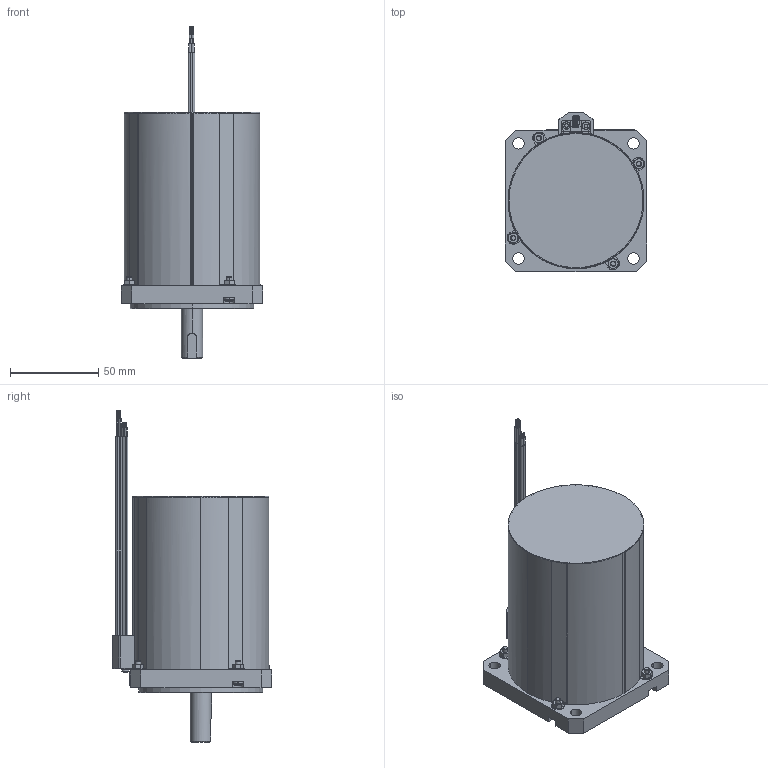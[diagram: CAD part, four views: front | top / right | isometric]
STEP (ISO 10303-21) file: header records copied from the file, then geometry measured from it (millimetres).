
FILE_DESCRIPTION (( 'STEP AP214' ), '1' );
FILE_NAME ('CPHB80E(メッシュなし）外形図.STEP', '2019-06-14T05:05:36', ( '' ), ( '' ), 'SwSTEP 2.0', 'SolidWorks 2016', '' );
FILE_SCHEMA (( 'AUTOMOTIVE_DESIGN' ));
Length unit declared in the file: millimetre
Products named in the file (1): CPHB80E(メッシュなし）外形図
Bounding box: 80 x 90.05 x 187.7 mm (x, y, z)
Volume: 408066.9 mm3; surface area: 106589.1 mm2
Topology: 1 solids, 3 shells, 844 faces, 2281 edges, 1474 vertices
Faces by surface type: plane 399, cylinder 326, cone 78, bspline 29, torus 8, sphere 4
Entity records: 37186 total; most frequent: CARTESIAN_POINT 6558, ORIENTED_EDGE 4550, DIRECTION 4432, EDGE_CURVE 2275, AXIS2_PLACEMENT_3D 1624, VERTEX_POINT 1474, LINE 1184, VECTOR 1184
